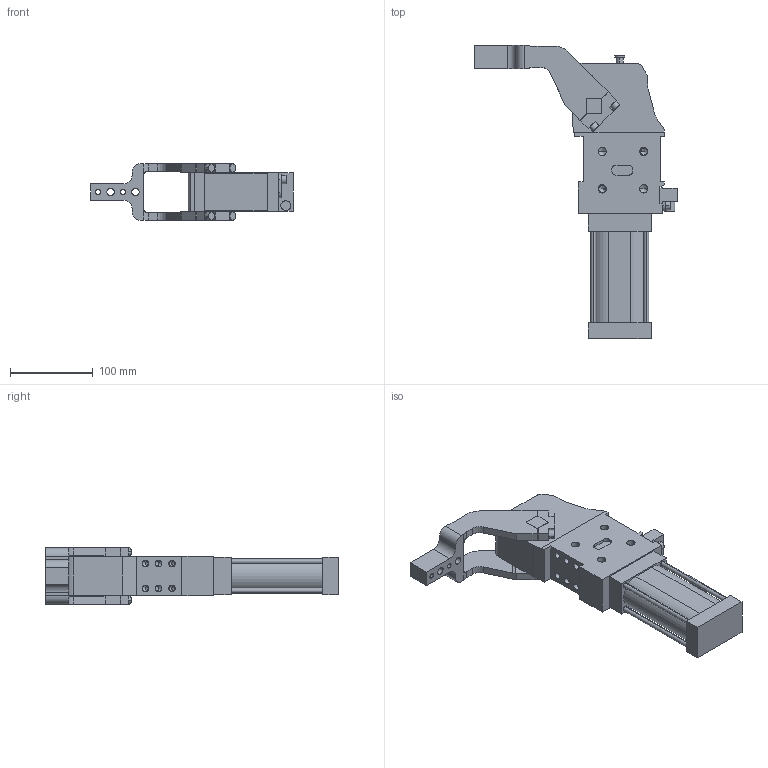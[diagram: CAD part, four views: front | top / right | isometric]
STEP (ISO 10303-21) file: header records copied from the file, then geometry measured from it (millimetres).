
FILE_DESCRIPTION (( 'STEP AP214' ), '1' );
FILE_NAME ('cpl50v3ci1g_135.STEP', '2023-01-26T09:52:59', ( '' ), ( '' ), 'SwSTEP 2.0', 'SolidWorks 2022', '' );
FILE_SCHEMA (( 'AUTOMOTIVE_DESIGN' ));
Length unit declared in the file: millimetre
Products named in the file (4): meccanica_cpl_50; blocchetto_VEP_0; cpl50v3ci1g_135; leva_cx_offset_45_cpl50
Assembly tree (3 placements, depth 2):
  cpl50v3ci1g_135
    meccanica_cpl_50
    blocchetto_VEP_0
    leva_cx_offset_45_cpl50
Bounding box: 244.5 x 353.5 x 69 mm (x, y, z)
Volume: 1390552.4 mm3; surface area: 165759.9 mm2
Topology: 3 solids, 3 shells, 401 faces, 1035 edges, 643 vertices
Faces by surface type: plane 195, cylinder 156, cone 50
Entity records: 13479 total; most frequent: DIRECTION 2125, CARTESIAN_POINT 2115, ORIENTED_EDGE 1978, EDGE_CURVE 989, AXIS2_PLACEMENT_3D 735, VECTOR 655, LINE 655, VERTEX_POINT 643
